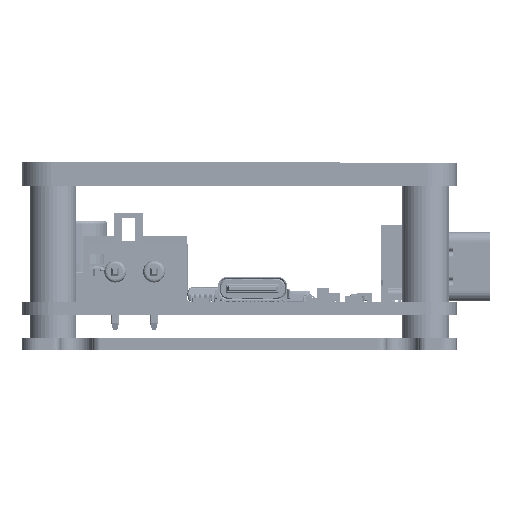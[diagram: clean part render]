
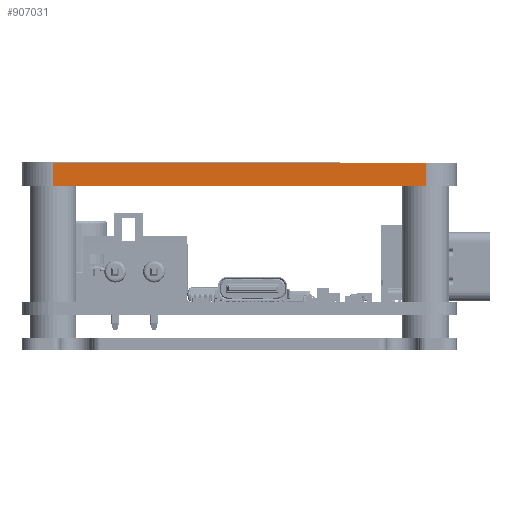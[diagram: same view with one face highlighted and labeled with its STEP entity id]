
A CAD part, left-side view. The second image highlights one B-rep face of the part: STEP entity #907031.
In plain terms, the highlighted planar face has unit normal (-1, 0, 0).
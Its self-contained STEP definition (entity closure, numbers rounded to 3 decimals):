
#905197 = EDGE_CURVE('',#905198,#905200,#905202,.T.);
#905198 = VERTEX_POINT('',#905199);
#905199 = CARTESIAN_POINT('',(0.,52.,
    19.6));
#905200 = VERTEX_POINT('',#905201);
#905201 = CARTESIAN_POINT('',(0.,52.,
    22.6));
#905202 = LINE('',#905203,#905204);
#905203 = CARTESIAN_POINT('',(0.,52.,
    19.6));
#905204 = VECTOR('',#905205,1.);
#905205 = DIRECTION('',(0.,0.,1.));
#907006 = VERTEX_POINT('',#907007);
#907007 = CARTESIAN_POINT('',(0.,3.9,
    22.6));
#907013 = EDGE_CURVE('',#907014,#907006,#907016,.T.);
#907014 = VERTEX_POINT('',#907015);
#907015 = CARTESIAN_POINT('',(0.,3.9,
    19.6));
#907016 = LINE('',#907017,#907018);
#907017 = CARTESIAN_POINT('',(0.,3.9,
    19.6));
#907018 = VECTOR('',#907019,1.);
#907019 = DIRECTION('',(0.,0.,1.));
#907031 = ADVANCED_FACE('',(#907032),#907048,.T.);
#907032 = FACE_BOUND('',#907033,.T.);
#907033 = EDGE_LOOP('',(#907034,#907035,#907041,#907042));
#907034 = ORIENTED_EDGE('',*,*,#907013,.T.);
#907035 = ORIENTED_EDGE('',*,*,#907036,.T.);
#907036 = EDGE_CURVE('',#907006,#905200,#907037,.T.);
#907037 = LINE('',#907038,#907039);
#907038 = CARTESIAN_POINT('',(0.,3.9,
    22.6));
#907039 = VECTOR('',#907040,1.);
#907040 = DIRECTION('',(0.,1.,0.));
#907041 = ORIENTED_EDGE('',*,*,#905197,.F.);
#907042 = ORIENTED_EDGE('',*,*,#907043,.F.);
#907043 = EDGE_CURVE('',#907014,#905198,#907044,.T.);
#907044 = LINE('',#907045,#907046);
#907045 = CARTESIAN_POINT('',(0.,3.9,
    19.6));
#907046 = VECTOR('',#907047,1.);
#907047 = DIRECTION('',(0.,1.,0.));
#907048 = PLANE('',#907049);
#907049 = AXIS2_PLACEMENT_3D('',#907050,#907051,#907052);
#907050 = CARTESIAN_POINT('',(0.,3.9,
    19.6));
#907051 = DIRECTION('',(-1.,0.,0.));
#907052 = DIRECTION('',(0.,1.,0.));
